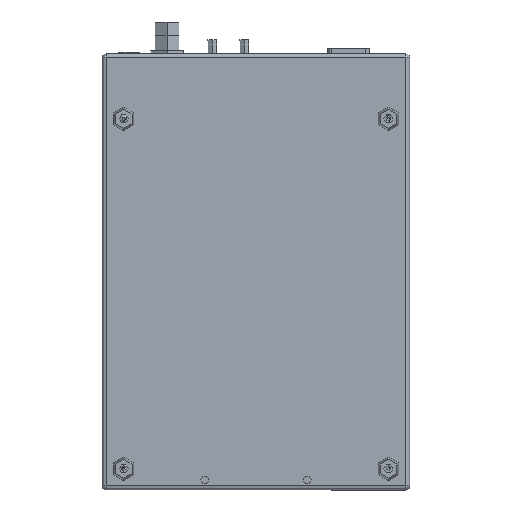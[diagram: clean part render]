
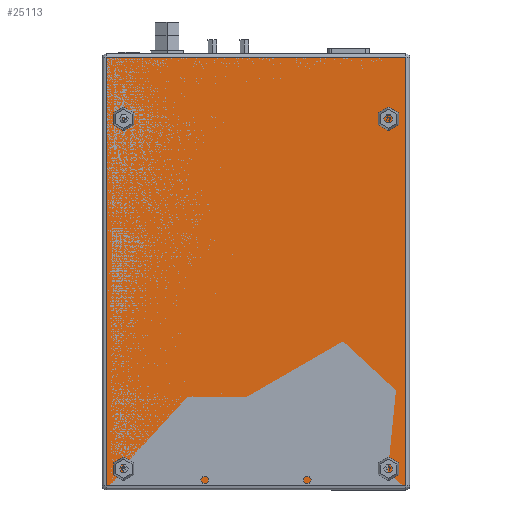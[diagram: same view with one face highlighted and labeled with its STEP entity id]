
A CAD part, top view. The second image highlights one B-rep face of the part: STEP entity #25113.
In plain terms, the highlighted planar face has unit normal (0, 0, 1).
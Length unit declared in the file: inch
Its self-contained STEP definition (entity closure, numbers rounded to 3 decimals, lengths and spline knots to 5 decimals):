
#79 = VERTEX_POINT ( 'NONE', #4944 ) ;
#154 = VERTEX_POINT ( 'NONE', #14868 ) ;
#3553 = LINE ( 'NONE', #22589, #21157 ) ;
#3739 = AXIS2_PLACEMENT_3D ( 'NONE', #23563, #34766, #7134 ) ;
#4059 = ORIENTED_EDGE ( 'NONE', *, *, #32010, .F. ) ;
#4239 = VERTEX_POINT ( 'NONE', #13060 ) ;
#4254 = VERTEX_POINT ( 'NONE', #19689 ) ;
#4375 = PLANE ( 'NONE',  #3739 ) ;
#4944 = CARTESIAN_POINT ( 'NONE',  ( -0.012, -10.001, 0.123 ) ) ;
#6392 = LINE ( 'NONE', #20244, #13574 ) ;
#7134 = DIRECTION ( 'NONE',  ( -1., 0., 0. ) ) ;
#7561 = LINE ( 'NONE', #35749, #17098 ) ;
#10856 = EDGE_LOOP ( 'NONE', ( #32942, #18380, #29670, #4059 ) ) ;
#12282 = DIRECTION ( 'NONE',  ( -1., 0., 0. ) ) ;
#13060 = CARTESIAN_POINT ( 'NONE',  ( -0.012, 0.032, 0.123 ) ) ;
#13574 = VECTOR ( 'NONE', #12282, 39.37008 ) ;
#14868 = CARTESIAN_POINT ( 'NONE',  ( 7.012, 0.032, 0.123 ) ) ;
#15439 = FACE_OUTER_BOUND ( 'NONE', #10856, .T. ) ;
#16615 = DIRECTION ( 'NONE',  ( 0., 1., 0. ) ) ;
#17098 = VECTOR ( 'NONE', #32610, 39.37008 ) ;
#17994 = EDGE_CURVE ( 'NONE', #79, #4239, #19744, .T. ) ;
#18380 = ORIENTED_EDGE ( 'NONE', *, *, #30046, .F. ) ;
#19689 = CARTESIAN_POINT ( 'NONE',  ( 7.012, -10.001, 0.123 ) ) ;
#19744 = LINE ( 'NONE', #30961, #20043 ) ;
#19983 = DIRECTION ( 'NONE',  ( 1., 0., 0. ) ) ;
#20043 = VECTOR ( 'NONE', #16615, 39.37008 ) ;
#20244 = CARTESIAN_POINT ( 'NONE',  ( -0.012, -10.001, 0.123 ) ) ;
#21157 = VECTOR ( 'NONE', #19983, 39.37008 ) ;
#22589 = CARTESIAN_POINT ( 'NONE',  ( -0.012, 0.032, 0.123 ) ) ;
#23563 = CARTESIAN_POINT ( 'NONE',  ( -0.012, -10.001, 0.123 ) ) ;
#25113 = ADVANCED_FACE ( 'NONE', ( #15439 ), #4375, .F. ) ;
#29670 = ORIENTED_EDGE ( 'NONE', *, *, #17994, .F. ) ;
#30046 = EDGE_CURVE ( 'NONE', #4239, #154, #3553, .T. ) ;
#30961 = CARTESIAN_POINT ( 'NONE',  ( -0.012, -10.001, 0.123 ) ) ;
#31576 = EDGE_CURVE ( 'NONE', #154, #4254, #7561, .T. ) ;
#32010 = EDGE_CURVE ( 'NONE', #4254, #79, #6392, .T. ) ;
#32610 = DIRECTION ( 'NONE',  ( 0., -1., 0. ) ) ;
#32942 = ORIENTED_EDGE ( 'NONE', *, *, #31576, .F. ) ;
#34766 = DIRECTION ( 'NONE',  ( 0., 0., -1. ) ) ;
#35749 = CARTESIAN_POINT ( 'NONE',  ( 7.012, -10.001, 0.123 ) ) ;
